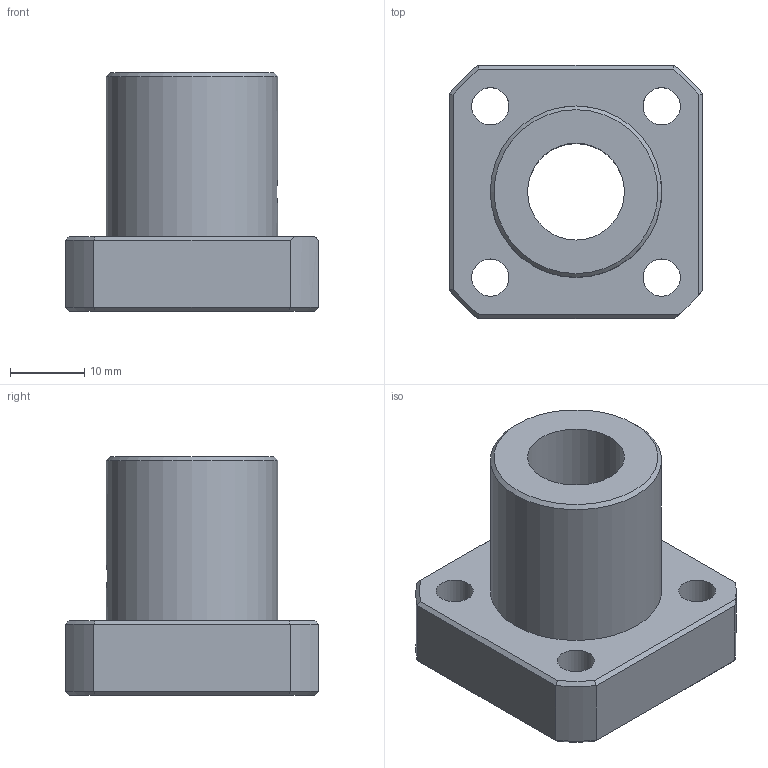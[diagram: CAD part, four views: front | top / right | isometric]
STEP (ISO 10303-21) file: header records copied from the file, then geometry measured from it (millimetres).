
FILE_DESCRIPTION((''),'2;1');
FILE_NAME('D:\製品 (図面)\カタログ用3D\シャフトブロック関連\STEP形式\SFW\SFW13.stp','2010-06-01T16:32:10',('Tsuchiya'),(''),'Autodesk Inventor 10','Autodesk Inventor 10','');
FILE_SCHEMA(('AUTOMOTIVE_DESIGN { 1 0 10303 214 1 1 1 1 }'));
Length unit declared in the file: millimetre
Products named in the file (1): SFW13
Bounding box: 34 x 34 x 32 mm (x, y, z)
Volume: 15334.8 mm3; surface area: 6554 mm2
Topology: 1 solids, 1 shells, 52 faces, 128 edges, 82 vertices
Faces by surface type: plane 29, cylinder 10, cone 9, bspline 4
Full cylindrical faces by diameter (mm): 5 x4, 13 x1, 23 x1
Entity records: 1599 total; most frequent: CARTESIAN_POINT 430, DIRECTION 224, ORIENTED_EDGE 222, EDGE_CURVE 111, AXIS2_PLACEMENT_3D 82, EDGE_LOOP 77, VERTEX_POINT 76, VECTOR 60
